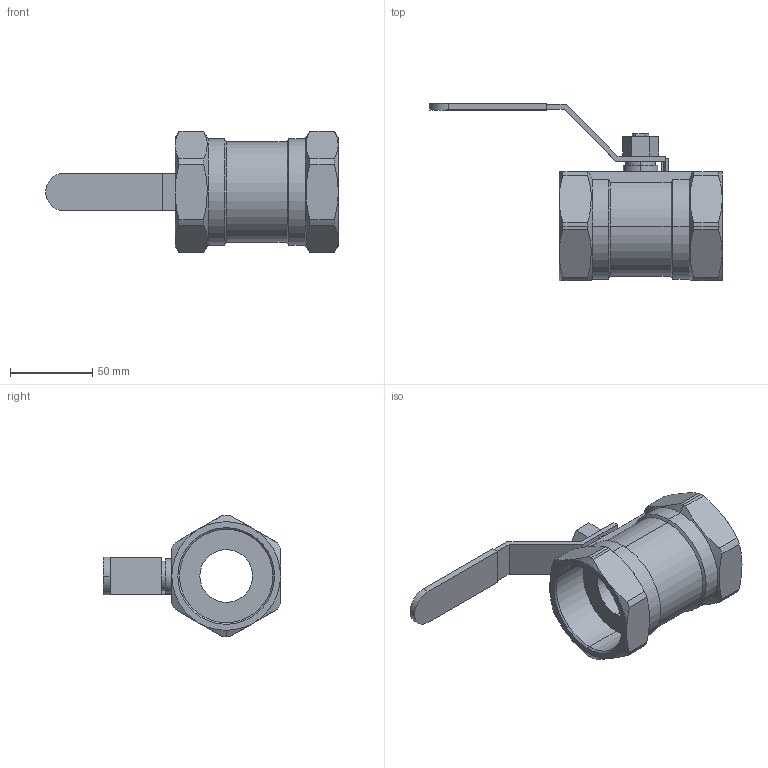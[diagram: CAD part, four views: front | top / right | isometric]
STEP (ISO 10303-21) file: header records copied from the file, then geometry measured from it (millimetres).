
FILE_DESCRIPTION (( 'STEP AP203' ), '1' );
FILE_NAME ('A3.622I050XFVPB0.STEP', '2018-11-06T10:40:03', ( '' ), ( '' ), 'SwSTEP 2.0', 'SolidWorks 2014', '' );
FILE_SCHEMA (( 'CONFIG_CONTROL_DESIGN' ));
Length unit declared in the file: millimetre
Products named in the file (1): A3.622I050XFVPB0
Bounding box: 177.5 x 107.5 x 74 mm (x, y, z)
Volume: 189734.2 mm3; surface area: 49803.7 mm2
Topology: 1 solids, 1 shells, 117 faces, 287 edges, 181 vertices
Faces by surface type: plane 47, cylinder 40, cone 30
Entity records: 3769 total; most frequent: CARTESIAN_POINT 932, DIRECTION 578, ORIENTED_EDGE 574, EDGE_CURVE 287, AXIS2_PLACEMENT_3D 219, VERTEX_POINT 181, LINE 140, VECTOR 140
